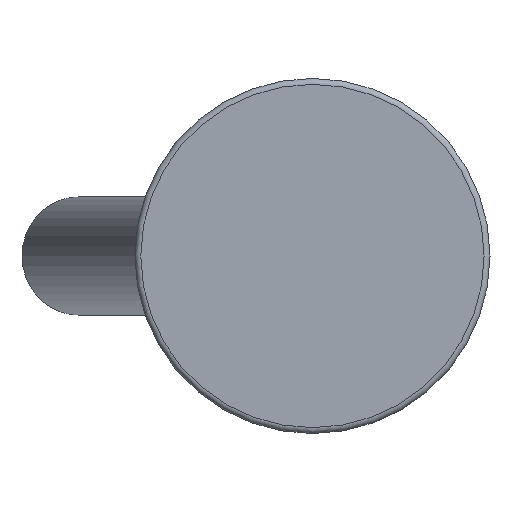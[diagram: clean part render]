
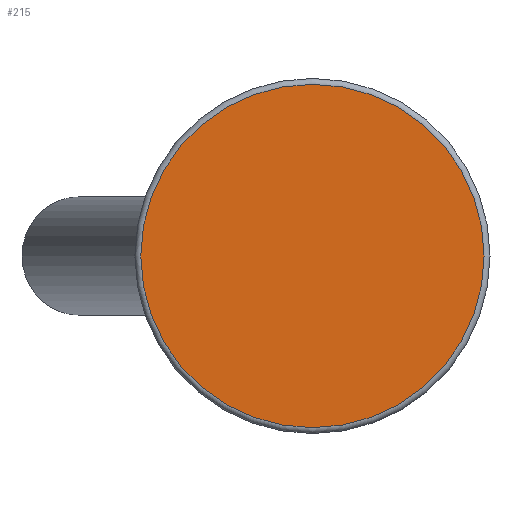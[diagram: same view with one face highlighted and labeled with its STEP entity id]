
A CAD part, front view. The second image highlights one B-rep face of the part: STEP entity #215.
In plain terms, the highlighted planar face has unit normal (0, -1, 0).
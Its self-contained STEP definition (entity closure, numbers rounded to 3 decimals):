
#215 = ADVANCED_FACE( '', ( #416 ), #417, .F. );
#416 = FACE_OUTER_BOUND( '', #616, .T. );
#417 = PLANE( '', #617 );
#616 = EDGE_LOOP( '', ( #968 ) );
#617 = AXIS2_PLACEMENT_3D( '', #969, #970, #971 );
#968 = ORIENTED_EDGE( '', *, *, #1238, .T. );
#969 = CARTESIAN_POINT( '', ( 29., 0., 0. ) );
#970 = DIRECTION( '', ( 0., 1., 0. ) );
#971 = DIRECTION( '', ( 0., 0., 1. ) );
#1238 = EDGE_CURVE( '', #1455, #1455, #1456, .T. );
#1455 = VERTEX_POINT( '', #1975 );
#1456 = CIRCLE( '', #1976, 29. );
#1975 = CARTESIAN_POINT( '', ( 0., 0., -29. ) );
#1976 = AXIS2_PLACEMENT_3D( '', #2121, #2122, #2123 );
#2121 = CARTESIAN_POINT( '', ( 0., 0., 0. ) );
#2122 = DIRECTION( '', ( 0., -1., 0. ) );
#2123 = DIRECTION( '', ( 0., 0., -1. ) );
